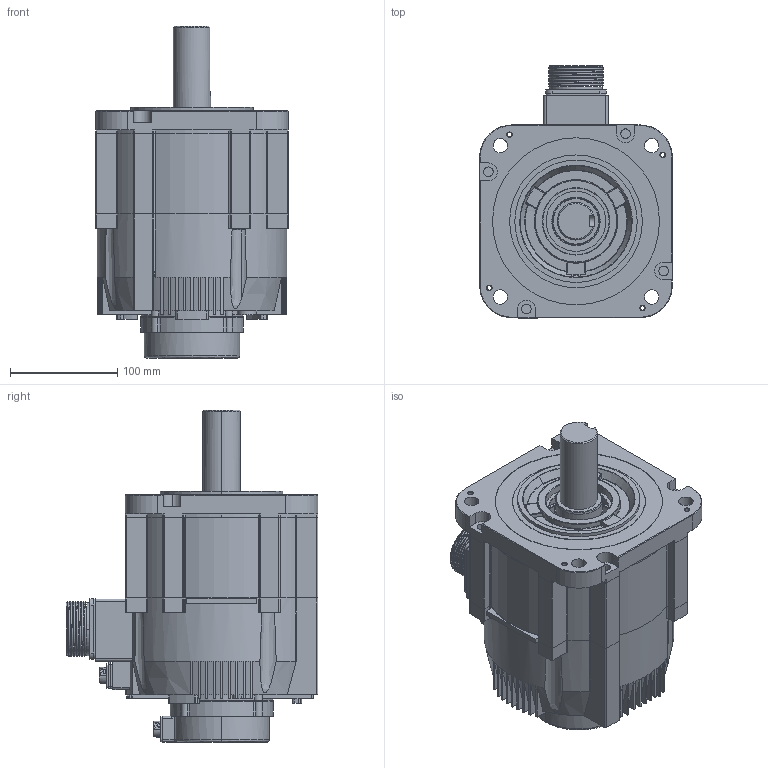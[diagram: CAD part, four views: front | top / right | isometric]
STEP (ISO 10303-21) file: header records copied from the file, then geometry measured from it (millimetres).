
FILE_DESCRIPTION (( 'STEP AP203' ), '1' );
FILE_NAME ('SMP-H290B.STEP', '2021-05-04T05:49:15', ( '' ), ( '' ), 'SwSTEP 2.0', 'SolidWorks 2016', '' );
FILE_SCHEMA (( 'CONFIG_CONTROL_DESIGN' ));
Products named in the file (1): SMP-H290B
Bounding box: 180 x 235.3 x 310 mm (x, y, z)
Surface area: 305122 mm2 (no closed solid volume)
Topology: 0 solids, 16 shells, 983 faces, 3013 edges, 2015 vertices
Faces by surface type: cylinder 444, plane 395, bspline 72, cone 72
Entity records: 43930 total; most frequent: CARTESIAN_POINT 17494, DIRECTION 5513, ORIENTED_EDGE 5339, EDGE_CURVE 2986, AXIS2_PLACEMENT_3D 2073, VERTEX_POINT 2015, VECTOR 1367, LINE 1367
